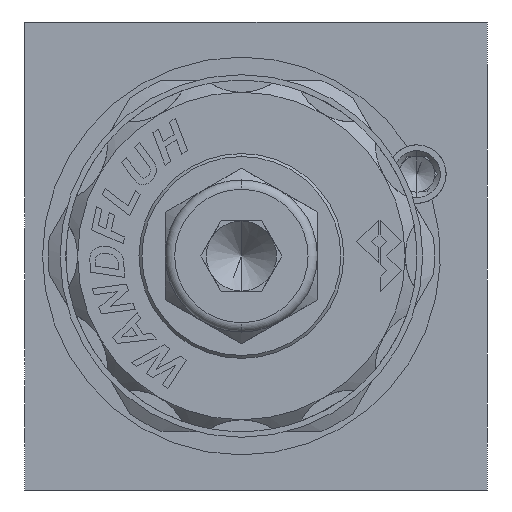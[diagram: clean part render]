
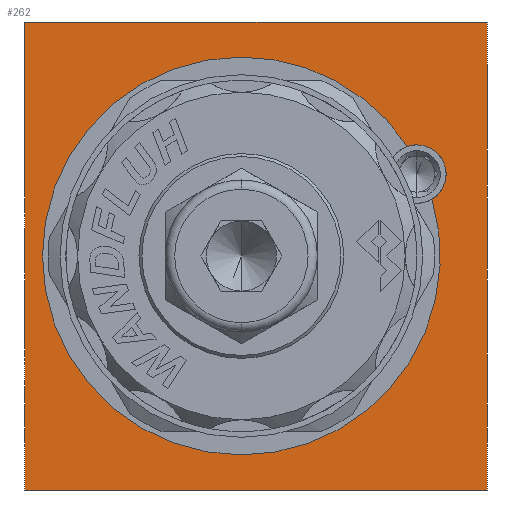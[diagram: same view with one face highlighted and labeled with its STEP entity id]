
A CAD part, left-side view. The second image highlights one B-rep face of the part: STEP entity #262.
In plain terms, the highlighted planar face has unit normal (-1, 0, 0).
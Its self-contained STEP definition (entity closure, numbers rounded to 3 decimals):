
#84 = CIRCLE ( 'NONE', #4500, 17. ) ;
#262 = ADVANCED_FACE ( 'NONE', ( #16061, #16076 ), #10768, .F. ) ;
#318 = LINE ( 'NONE', #6209, #15635 ) ;
#692 = AXIS2_PLACEMENT_3D ( 'NONE', #11241, #11306, #3270 ) ;
#858 = DIRECTION ( 'NONE',  ( 0., 0., 1. ) ) ;
#996 = EDGE_CURVE ( 'NONE', #10352, #12859, #16221, .T. ) ;
#1415 = LINE ( 'NONE', #10458, #2576 ) ;
#1543 = LINE ( 'NONE', #16624, #8906 ) ;
#1559 = DIRECTION ( 'NONE',  ( 0., 1., 0. ) ) ;
#2110 = CARTESIAN_POINT ( 'NONE',  ( 0., 18.75, -21. ) ) ;
#2205 = ORIENTED_EDGE ( 'NONE', *, *, #17282, .F. ) ;
#2320 = CIRCLE ( 'NONE', #9073, 17. ) ;
#2321 = CARTESIAN_POINT ( 'NONE',  ( 0., 0.25, -1. ) ) ;
#2576 = VECTOR ( 'NONE', #1559, 1000. ) ;
#2704 = CARTESIAN_POINT ( 'NONE',  ( 0., -14.75, 8.5 ) ) ;
#2938 = VECTOR ( 'NONE', #5823, 1000. ) ;
#3076 = EDGE_CURVE ( 'NONE', #12951, #8651, #1415, .T. ) ;
#3253 = CARTESIAN_POINT ( 'NONE',  ( 0., 0.25, -1. ) ) ;
#3270 = DIRECTION ( 'NONE',  ( 0., 0., -1. ) ) ;
#3370 = DIRECTION ( 'NONE',  ( 0., 0., 1. ) ) ;
#3400 = ORIENTED_EDGE ( 'NONE', *, *, #8107, .F. ) ;
#3649 = DIRECTION ( 'NONE',  ( 0., 0., 1. ) ) ;
#3716 = DIRECTION ( 'NONE',  ( -1., 0., 0. ) ) ;
#3738 = CARTESIAN_POINT ( 'NONE',  ( 0., 0.25, -1. ) ) ;
#3764 = DIRECTION ( 'NONE',  ( 0., 0., 1. ) ) ;
#4500 = AXIS2_PLACEMENT_3D ( 'NONE', #2321, #12696, #3764 ) ;
#4696 = DIRECTION ( 'NONE',  ( 0., 0., 1. ) ) ;
#5807 = CARTESIAN_POINT ( 'NONE',  ( 0., -14.75, 6. ) ) ;
#5823 = DIRECTION ( 'NONE',  ( 0., 0., 1. ) ) ;
#6209 = CARTESIAN_POINT ( 'NONE',  ( 0., -21.457, 19. ) ) ;
#6272 = ORIENTED_EDGE ( 'NONE', *, *, #18214, .T. ) ;
#7285 = CARTESIAN_POINT ( 'NONE',  ( 0., 0.25, -18. ) ) ;
#7307 = DIRECTION ( 'NONE',  ( 0., 0., 1. ) ) ;
#7911 = ORIENTED_EDGE ( 'NONE', *, *, #3076, .F. ) ;
#7991 = EDGE_CURVE ( 'NONE', #12951, #8113, #14840, .T. ) ;
#8107 = EDGE_CURVE ( 'NONE', #12859, #15181, #12468, .T. ) ;
#8113 = VERTEX_POINT ( 'NONE', #15671 ) ;
#8382 = EDGE_CURVE ( 'NONE', #15181, #16853, #10781, .T. ) ;
#8651 = VERTEX_POINT ( 'NONE', #2110 ) ;
#8906 = VECTOR ( 'NONE', #3370, 1000. ) ;
#9073 = AXIS2_PLACEMENT_3D ( 'NONE', #3253, #13699, #4696 ) ;
#9742 = DIRECTION ( 'NONE',  ( -1., 0., 0. ) ) ;
#10166 = ORIENTED_EDGE ( 'NONE', *, *, #13148, .F. ) ;
#10352 = VERTEX_POINT ( 'NONE', #7285 ) ;
#10458 = CARTESIAN_POINT ( 'NONE',  ( 0., -21.457, -21. ) ) ;
#10649 = EDGE_LOOP ( 'NONE', ( #2205, #7911, #15180, #6272 ) ) ;
#10742 = DIRECTION ( 'NONE',  ( 0., 1., 0. ) ) ;
#10768 = PLANE ( 'NONE',  #692 ) ;
#10781 = CIRCLE ( 'NONE', #15659, 2.5 ) ;
#11056 = EDGE_CURVE ( 'NONE', #16853, #11884, #2320, .T. ) ;
#11241 = CARTESIAN_POINT ( 'NONE',  ( 0., 18.75, 19. ) ) ;
#11306 = DIRECTION ( 'NONE',  ( 1., 0., 0. ) ) ;
#11884 = VERTEX_POINT ( 'NONE', #16908 ) ;
#11997 = ORIENTED_EDGE ( 'NONE', *, *, #8382, .F. ) ;
#12468 = CIRCLE ( 'NONE', #18792, 2.5 ) ;
#12696 = DIRECTION ( 'NONE',  ( -1., 0., 0. ) ) ;
#12794 = AXIS2_PLACEMENT_3D ( 'NONE', #3738, #3716, #3649 ) ;
#12859 = VERTEX_POINT ( 'NONE', #16297 ) ;
#12951 = VERTEX_POINT ( 'NONE', #16469 ) ;
#12992 = ORIENTED_EDGE ( 'NONE', *, *, #996, .F. ) ;
#13148 = EDGE_CURVE ( 'NONE', #11884, #10352, #84, .T. ) ;
#13286 = ORIENTED_EDGE ( 'NONE', *, *, #11056, .F. ) ;
#13291 = CARTESIAN_POINT ( 'NONE',  ( 0., -20.75, -21.707 ) ) ;
#13699 = DIRECTION ( 'NONE',  ( -1., 0., 0. ) ) ;
#14565 = CARTESIAN_POINT ( 'NONE',  ( 0., -13.938, 8.365 ) ) ;
#14840 = LINE ( 'NONE', #13291, #2938 ) ;
#15180 = ORIENTED_EDGE ( 'NONE', *, *, #7991, .T. ) ;
#15181 = VERTEX_POINT ( 'NONE', #2704 ) ;
#15635 = VECTOR ( 'NONE', #10742, 1000. ) ;
#15659 = AXIS2_PLACEMENT_3D ( 'NONE', #5807, #16228, #7307 ) ;
#15671 = CARTESIAN_POINT ( 'NONE',  ( 0., -20.75, 19. ) ) ;
#16061 = FACE_OUTER_BOUND ( 'NONE', #10649, .T. ) ;
#16076 = FACE_BOUND ( 'NONE', #18098, .T. ) ;
#16221 = CIRCLE ( 'NONE', #12794, 17. ) ;
#16228 = DIRECTION ( 'NONE',  ( -1., 0., 0. ) ) ;
#16297 = CARTESIAN_POINT ( 'NONE',  ( 0., -16.041, 3.859 ) ) ;
#16469 = CARTESIAN_POINT ( 'NONE',  ( 0., -20.75, -21. ) ) ;
#16624 = CARTESIAN_POINT ( 'NONE',  ( 0., 18.75, -21.707 ) ) ;
#16845 = VERTEX_POINT ( 'NONE', #17319 ) ;
#16853 = VERTEX_POINT ( 'NONE', #14565 ) ;
#16908 = CARTESIAN_POINT ( 'NONE',  ( 0., 0.25, 16. ) ) ;
#17282 = EDGE_CURVE ( 'NONE', #8651, #16845, #1543, .T. ) ;
#17319 = CARTESIAN_POINT ( 'NONE',  ( 0., 18.75, 19. ) ) ;
#18098 = EDGE_LOOP ( 'NONE', ( #13286, #11997, #3400, #12992, #10166 ) ) ;
#18214 = EDGE_CURVE ( 'NONE', #8113, #16845, #318, .T. ) ;
#18455 = CARTESIAN_POINT ( 'NONE',  ( 0., -14.75, 6. ) ) ;
#18792 = AXIS2_PLACEMENT_3D ( 'NONE', #18455, #9742, #858 ) ;
